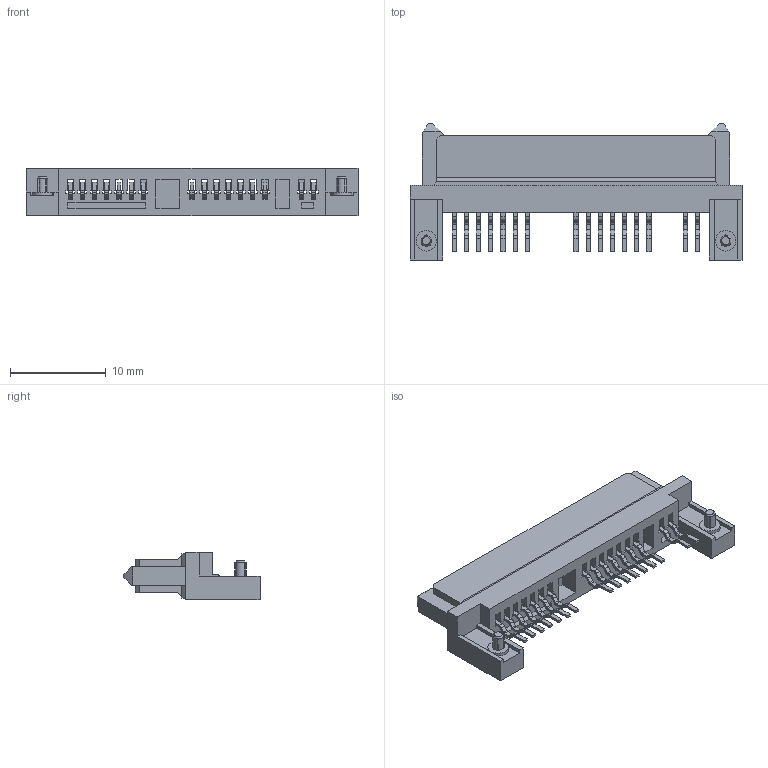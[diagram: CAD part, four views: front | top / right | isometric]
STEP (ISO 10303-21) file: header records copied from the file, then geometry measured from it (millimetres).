
FILE_DESCRIPTION((''),'2;1');
FILE_NAME('781090001','2009-11-10T',('pnb'),(''),'PRO/ENGINEER BY PARAMETRIC TECHNOLOGY CORPORATION, 2003451','PRO/ENGINEER BY PARAMETRIC TECHNOLOGY CORPORATION, 2003451','');
FILE_SCHEMA(('CONFIG_CONTROL_DESIGN'));
Length unit declared in the file: millimetre
Products named in the file (1): 781090001
Bounding box: 34.65 x 14.2 x 5 mm (x, y, z)
Volume: 809.5 mm3; surface area: 2068.3 mm2
Topology: 1 solids, 1 shells, 892 faces, 2710 edges, 1816 vertices
Faces by surface type: plane 648, cylinder 240, cone 4
Entity records: 30119 total; most frequent: CARTESIAN_POINT 5337, ORIENTED_EDGE 5262, DIRECTION 4998, EDGE_CURVE 2631, VECTOR 2208, LINE 2208, VERTEX_POINT 1734, AXIS2_PLACEMENT_3D 1395
